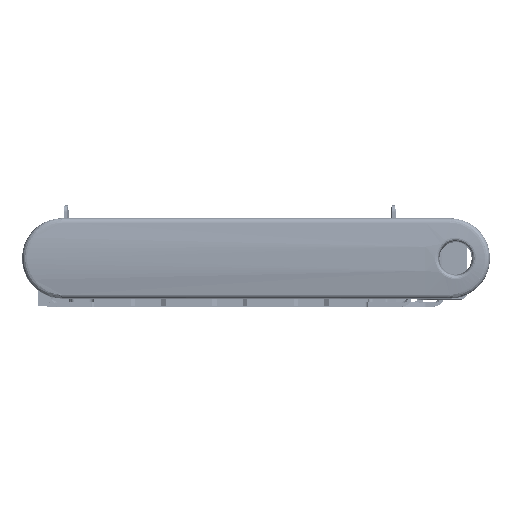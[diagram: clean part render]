
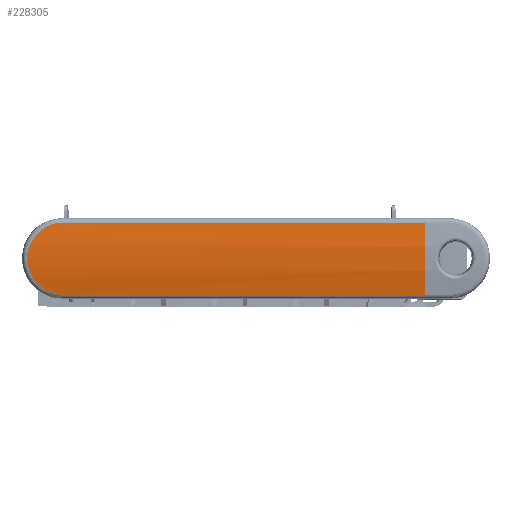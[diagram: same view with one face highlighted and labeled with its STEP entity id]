
A CAD part, front view. The second image highlights one B-rep face of the part: STEP entity #228305.
In plain terms, the highlighted cylindrical face has radius 7.222 mm (diameter 14.445 mm), a partial arc.
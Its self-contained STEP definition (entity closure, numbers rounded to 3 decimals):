
#208248=DIRECTION('',(0.,-1.,
0.));
#208249=VECTOR('',#208248,11.32);
#208250=CARTESIAN_POINT('',(-30.092,-73.025,
-4.785));
#208251=LINE('',#208250,#208249);
#208262=CARTESIAN_POINT('',(-30.174,-84.345,
-7.035));
#208263=CARTESIAN_POINT('',(-30.174,-84.381,
-7.035));
#208264=CARTESIAN_POINT('',(-30.175,-84.455,
-7.031));
#208265=CARTESIAN_POINT('',(-30.177,-84.568,
-7.011));
#208266=CARTESIAN_POINT('',(-30.181,-84.683,
-6.978));
#208267=CARTESIAN_POINT('',(-30.186,-84.796,
-6.93));
#208268=CARTESIAN_POINT('',(-30.193,-84.906,
-6.868));
#208269=CARTESIAN_POINT('',(-30.2,-85.011,
-6.792));
#208270=CARTESIAN_POINT('',(-30.207,-85.109,
-6.703));
#208271=CARTESIAN_POINT('',(-30.214,-85.198,
-6.603));
#208272=CARTESIAN_POINT('',(-30.22,-85.274,
-6.495));
#208273=CARTESIAN_POINT('',(-30.224,-85.337,
-6.381));
#208274=CARTESIAN_POINT('',(-30.227,-85.385,
-6.264));
#208275=CARTESIAN_POINT('',(-30.228,-85.419,
-6.146));
#208276=CARTESIAN_POINT('',(-30.227,-85.439,
-6.028));
#208277=CARTESIAN_POINT('',(-30.223,-85.446,
-5.91));
#208278=CARTESIAN_POINT('',(-30.218,-85.439,
-5.791));
#208279=CARTESIAN_POINT('',(-30.211,-85.419,
-5.672));
#208280=CARTESIAN_POINT('',(-30.202,-85.384,
-5.553));
#208281=CARTESIAN_POINT('',(-30.191,-85.335,
-5.435));
#208282=CARTESIAN_POINT('',(-30.179,-85.271,
-5.32));
#208283=CARTESIAN_POINT('',(-30.165,-85.195,
-5.212));
#208284=CARTESIAN_POINT('',(-30.151,-85.106,
-5.112));
#208285=CARTESIAN_POINT('',(-30.138,-85.007,
-5.024));
#208286=CARTESIAN_POINT('',(-30.125,-84.903,
-4.949));
#208287=CARTESIAN_POINT('',(-30.115,-84.793,
-4.888));
#208288=CARTESIAN_POINT('',(-30.106,-84.681,
-4.841));
#208289=CARTESIAN_POINT('',(-30.1,-84.567,
-4.808));
#208290=CARTESIAN_POINT('',(-30.096,-84.455,
-4.788));
#208291=CARTESIAN_POINT('',(-30.095,-84.381,
-4.784));
#208292=CARTESIAN_POINT('',(-30.095,-84.345,
-4.784));
#208304=DIRECTION('',(0.,1.,0.));
#208305=VECTOR('',#208304,11.32);
#208306=CARTESIAN_POINT('',(-30.174,-84.345,
-7.035));
#208307=LINE('',#208306,#208305);
#208422=CARTESIAN_POINT('',(-23.005,-73.025,
-6.159));
#208423=DIRECTION('',(0.,1.,0.));
#208424=DIRECTION('',(-0.993,0.,-0.121));
#208425=AXIS2_PLACEMENT_3D('',#208422,#208423,#208424);
#225224=CARTESIAN_POINT('',(-30.174,-84.345,
-7.035));
#225225=VERTEX_POINT('',#225224);
#225226=CARTESIAN_POINT('',(-30.174,-73.025,
-7.035));
#225227=VERTEX_POINT('',#225226);
#225228=CARTESIAN_POINT('',(-30.092,-73.025,
-4.785));
#225229=CARTESIAN_POINT('',(-30.092,-84.345,
-4.785));
#225230=VERTEX_POINT('',#225228);
#225231=VERTEX_POINT('',#225229);
#228291=CARTESIAN_POINT('',(-23.005,-6000098.7,
-6.159));
#228292=DIRECTION('',(0.,1.,0.));
#228293=DIRECTION('',(0.,0.,1.));
#228294=AXIS2_PLACEMENT_3D('',#228291,#228292,#228293);
#228295=CYLINDRICAL_SURFACE('',#228294,7.222);
#228297=ORIENTED_EDGE('',*,*,#228296,.T.);
#228299=ORIENTED_EDGE('',*,*,#228298,.T.);
#228300=ORIENTED_EDGE('',*,*,#228281,.T.);
#228302=ORIENTED_EDGE('',*,*,#228301,.F.);
#228303=EDGE_LOOP('',(#228297,#228299,#228300,#228302));
#228304=FACE_OUTER_BOUND('',#228303,.F.);
#228305=ADVANCED_FACE('',(#228304),#228295,.T.);
#208293=B_SPLINE_CURVE_WITH_KNOTS('',3,(#208262,#208263,#208264,#208265,#208266,
#208267,#208268,#208269,#208270,#208271,#208272,#208273,#208274,#208275,#208276,
#208277,#208278,#208279,#208280,#208281,#208282,#208283,#208284,#208285,#208286,
#208287,#208288,#208289,#208290,#208291,#208292),.UNSPECIFIED.,.F.,.F.,(4,1,1,1,
1,1,1,1,1,1,1,1,1,1,1,1,1,1,1,1,1,1,1,1,1,1,1,1,4),(0.,0.036,
0.071,0.107,0.143,0.179,
0.214,0.25,0.286,0.321,0.357,
0.393,0.429,0.464,0.5,0.536,
0.571,0.607,0.643,0.679,
0.714,0.75,0.786,0.821,0.857,
0.893,0.929,0.964,1.),.UNSPECIFIED.);
#208426=CIRCLE('',#208425,7.222);
#228281=EDGE_CURVE('',#225230,#225231,#208251,.T.);
#228296=EDGE_CURVE('',#225225,#225227,#208307,.T.);
#228298=EDGE_CURVE('',#225227,#225230,#208426,.T.);
#228301=EDGE_CURVE('',#225225,#225231,#208293,.T.);
